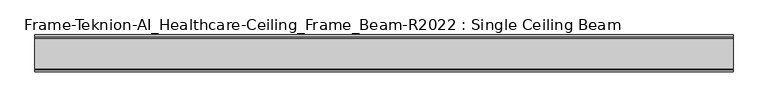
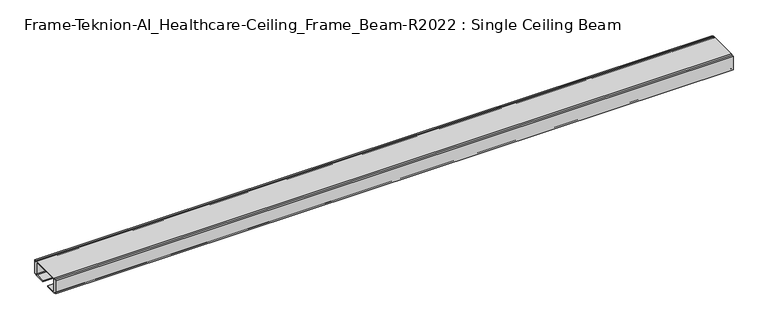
"""IFC4 building model written with IfcOpenShell, lengths in millimetres: furniture geometry, Frame-Teknion-AI_Healthcare-Ceiling_Frame_Beam-R2022 : Single Ceiling Beam."""

from ifc_helpers import new_model, si_unit, point, frame, frame_2d, origin, place, context, project, spatial, polyline, circle_curve, trimmed, segment, composite_curve, outline, extrude, source, transform, mapped, element, save


def frame_teknion_ai_healthcare_ceiling_frame_beam_r2022_single_129b24f0(model_context):
    return source(origin(), model_context, "Body", "SweptSolid", [
        extrude(outline(composite_curve([segment(polyline([(-32.174996, 1573.5046), (-32.174996, 1598.9045998), (-28.999999, 1598.9045998), (-28.999999, 1597.787)]), True, "CONTINUOUS"), segment(trimmed(circle_curve(frame_2d((-26.5869991, 1597.787)), 2.413), [point((-28.999999, 1597.787))], [point((-26.5869991, 1600.2))], False, "CARTESIAN"), True, "CONTINUOUS"), segment(polyline([(-26.5869991, 1600.2), (26.5869991, 1600.2)]), True, "CONTINUOUS"), segment(trimmed(circle_curve(frame_2d((26.5869991, 1597.787)), 2.413), [point((26.5869991, 1600.2))], [point((28.999999, 1597.787))], False, "CARTESIAN"), True, "CONTINUOUS"), segment(polyline([(28.999999, 1597.787), (28.999999, 1598.9045998), (32.174996, 1598.9045998), (32.174996, 1573.5046), (28.999999, 1573.5046), (28.999999, 1574.6129989)]), True, "CONTINUOUS"), segment(trimmed(circle_curve(frame_2d((26.5869991, 1574.6129989)), 2.413), [point((28.999999, 1574.6129989))], [point((26.5869991, 1572.199999))], False, "CARTESIAN"), True, "CONTINUOUS"), segment(polyline([(26.5869991, 1572.199999), (7.9374947, 1572.199999), (7.9374947, 1574.4859991), (25.4440002, 1574.4859991)]), True, "CONTINUOUS"), segment(trimmed(circle_curve(frame_2d((25.4440002, 1576.0099999)), 1.5240008), [point((25.4440002, 1574.4859991))], [point((26.968001, 1576.0099999))], True, "CARTESIAN"), True, "CONTINUOUS"), segment(polyline([(26.968001, 1576.0099999), (26.968001, 1597.1520009)]), True, "CONTINUOUS"), segment(trimmed(circle_curve(frame_2d((25.9520019, 1597.1520009)), 1.015999), [point((26.968001, 1597.1520009))], [point((25.9520019, 1598.168))], True, "CARTESIAN"), True, "CONTINUOUS"), segment(polyline([(25.9520019, 1598.168), (-25.9520019, 1598.168)]), True, "CONTINUOUS"), segment(trimmed(circle_curve(frame_2d((-25.9520019, 1597.1520009)), 1.015999), [point((-25.9520019, 1598.168))], [point((-26.968001, 1597.1520009))], True, "CARTESIAN"), True, "CONTINUOUS"), segment(polyline([(-26.968001, 1597.1520009), (-26.968001, 1576.0099999)]), True, "CONTINUOUS"), segment(trimmed(circle_curve(frame_2d((-25.4440002, 1576.0099999)), 1.5240008), [point((-26.968001, 1576.0099999))], [point((-25.4440002, 1574.4859991))], True, "CARTESIAN"), True, "CONTINUOUS"), segment(polyline([(-25.4440002, 1574.4859991), (-7.9374947, 1574.4859991), (-7.9374947, 1572.199999), (-26.5869991, 1572.199999)]), True, "CONTINUOUS"), segment(trimmed(circle_curve(frame_2d((-26.5869991, 1574.6129989)), 2.413), [point((-26.5869991, 1572.199999))], [point((-28.999999, 1574.6129989))], False, "CARTESIAN"), True, "CONTINUOUS"), segment(polyline([(-28.999999, 1574.6129989), (-28.999999, 1573.5046), (-32.174996, 1573.5046)]), True, "CONTINUOUS")], self_intersect=False)), frame((-607.7204, 0.0, 0.0), z_axis=(1.0, 0.0, 0.0), x_axis=(0.0, 1.0, 0.0)), (0.0, 0.0, 1.0), 1215.4408),
    ])


if __name__ == "__main__":
    model = new_model("IFC4")
    model_context = context("Model", 3, world=origin())
    ifc_project = project(units=[si_unit("LENGTHUNIT", "METRE", prefix="MILLI")], contexts=[model_context])
    site = spatial("IfcSite", under=ifc_project)
    building = spatial("IfcBuilding", under=site)
    placement = place(None, origin())
    frame_teknion_ai_healthcare_ceiling_frame_beam_r2022_single_shape = frame_teknion_ai_healthcare_ceiling_frame_beam_r2022_single_129b24f0(model_context)
    element("IfcFurniture", 1, ObjectType="Frame-Teknion-AI_Healthcare-Ceiling_Frame_Beam-R2022 : Single Ceiling Beam", at=placement, inside=building, context=model_context, shape_type="MappedRepresentation", body=[
        mapped(frame_teknion_ai_healthcare_ceiling_frame_beam_r2022_single_shape, transform((0.0, 0.0, 0.0), x_axis=(1.0, 0.0, 0.0), y_axis=(0.0, 1.0, 0.0), z_axis=(0.0, 0.0, 1.0))),
    ])
    save(model, "model.ifc")
